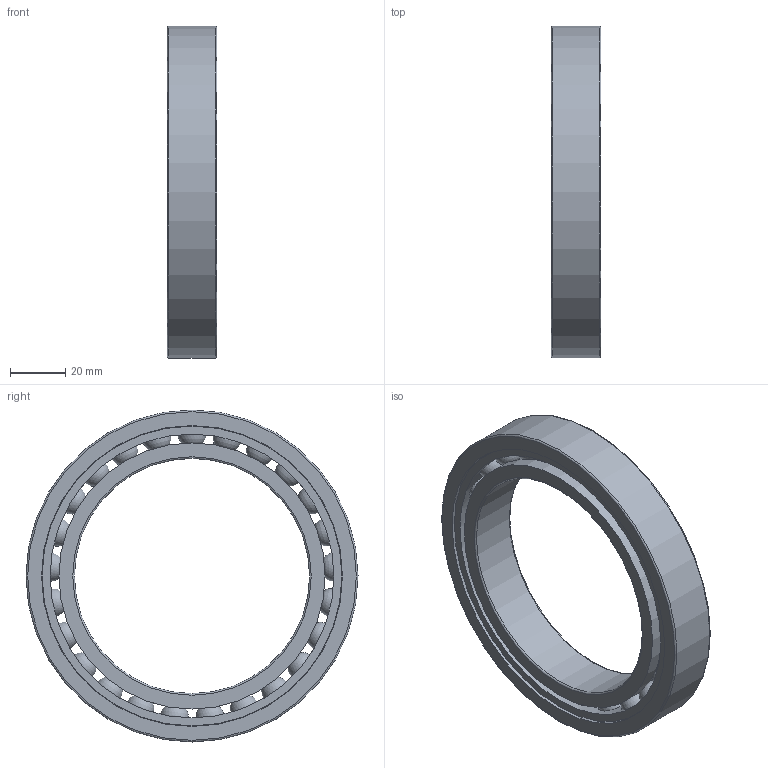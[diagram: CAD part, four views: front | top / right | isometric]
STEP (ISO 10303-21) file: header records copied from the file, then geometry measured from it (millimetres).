
FILE_DESCRIPTION(/* description */ (''),/* implementation_level */ '2;1');
FILE_NAME(/* name */ 'S_61917_TA.step',/* time_stamp */ '2013-03-06T14:48:47+01:00',/* author */ ('Marian'),/* organization */ ('GMN'),/* preprocessor_version */ 'ST-DEVELOPER v11',/* originating_system */ 'SIEMENS UGS NX 6.0',/* authorisation */ '');
FILE_SCHEMA (('CONFIG_CONTROL_DESIGN'));
Length unit declared in the file: millimetre
Products named in the file (1): S_61917_TA
Bounding box: 18 x 120 x 120 mm (x, y, z)
Volume: 76345.2 mm3; surface area: 48909.5 mm2
Topology: 28 solids, 28 shells, 70 faces, 184 edges, 120 vertices
Faces by surface type: cylinder 32, sphere 25, torus 6, plane 6, cone 1
Full cylindrical faces by diameter (mm): 10.519 x25, 85 x1, 96.2 x2, 102.639 x1, 108.35 x1, 108.75 x1, 120 x1
Entity records: 2348 total; most frequent: CARTESIAN_POINT 1086, DIRECTION 182, FACE_BOUND 165, EDGE_LOOP 140, ORIENTED_EDGE 140, VERTEX_POINT 95, AXIS2_PLACEMENT_3D 91, EDGE_CURVE 70
